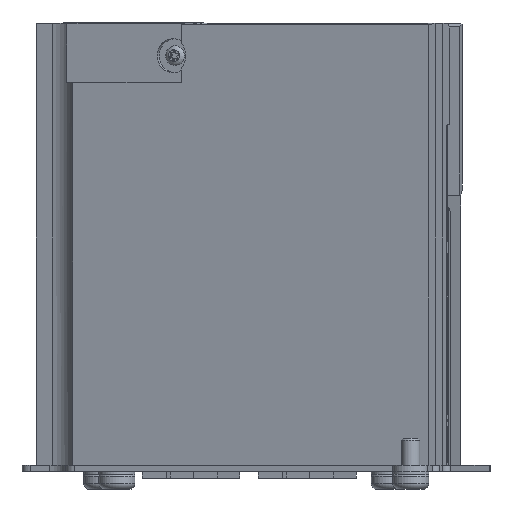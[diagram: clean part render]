
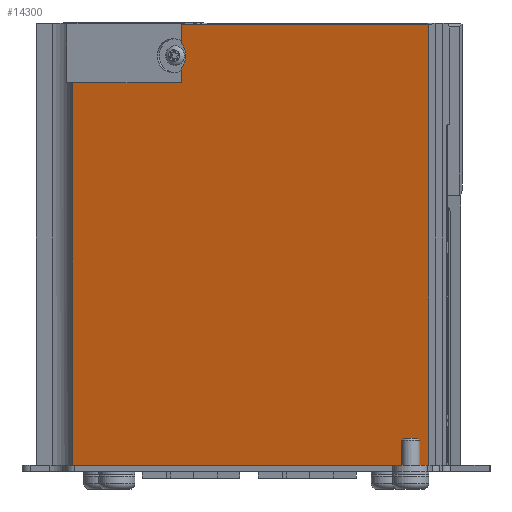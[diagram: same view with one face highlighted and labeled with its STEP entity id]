
A CAD part, front view. The second image highlights one B-rep face of the part: STEP entity #14300.
In plain terms, the highlighted planar face has unit normal (-0.329, -0.945, 0).
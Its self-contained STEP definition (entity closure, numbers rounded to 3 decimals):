
#1678=LINE('',#23355,#3213);
#1687=LINE('',#23375,#3222);
#1691=LINE('',#23386,#3226);
#1719=LINE('',#23450,#3254);
#1720=LINE('',#23454,#3255);
#1721=LINE('',#23455,#3256);
#1722=LINE('',#23456,#3257);
#3213=VECTOR('',#18296,1.);
#3222=VECTOR('',#18313,1.);
#3226=VECTOR('',#18321,1.);
#3254=VECTOR('',#18383,1.);
#3255=VECTOR('',#18388,1.);
#3256=VECTOR('',#18389,1.);
#3257=VECTOR('',#18390,1.);
#4153=FACE_OUTER_BOUND('',#4933,.T.);
#4933=EDGE_LOOP('',(#11916,#11917,#11918,#11919,#11920,#11921,#11922,#11923));
#5228=CIRCLE('',#15212,2.925);
#6417=VERTEX_POINT('',#23353);
#6418=VERTEX_POINT('',#23354);
#6424=VERTEX_POINT('',#23372);
#6425=VERTEX_POINT('',#23374);
#6429=VERTEX_POINT('',#23383);
#6430=VERTEX_POINT('',#23385);
#6449=VERTEX_POINT('',#23448);
#6450=VERTEX_POINT('',#23453);
#8293=EDGE_CURVE('',#6417,#6418,#1678,.T.);
#8303=EDGE_CURVE('',#6425,#6424,#1687,.T.);
#8308=EDGE_CURVE('',#6430,#6429,#1691,.T.);
#8339=EDGE_CURVE('',#6449,#6430,#1719,.T.);
#8340=EDGE_CURVE('',#6424,#6449,#5228,.T.);
#8341=EDGE_CURVE('',#6450,#6429,#1720,.T.);
#8342=EDGE_CURVE('',#6450,#6417,#1721,.T.);
#8343=EDGE_CURVE('',#6418,#6425,#1722,.T.);
#11916=ORIENTED_EDGE('',*,*,#8340,.T.);
#11917=ORIENTED_EDGE('',*,*,#8339,.T.);
#11918=ORIENTED_EDGE('',*,*,#8308,.T.);
#11919=ORIENTED_EDGE('',*,*,#8341,.F.);
#11920=ORIENTED_EDGE('',*,*,#8342,.T.);
#11921=ORIENTED_EDGE('',*,*,#8293,.T.);
#11922=ORIENTED_EDGE('',*,*,#8343,.T.);
#11923=ORIENTED_EDGE('',*,*,#8303,.T.);
#12916=PLANE('',#15211);
#14300=ADVANCED_FACE('',(#4153),#12916,.T.);
#15211=AXIS2_PLACEMENT_3D('',#23451,#18384,#18385);
#15212=AXIS2_PLACEMENT_3D('',#23452,#18386,#18387);
#18296=DIRECTION('',(0.,0.,1.));
#18313=DIRECTION('',(0.,0.,-1.));
#18321=DIRECTION('',(-0.944,0.329,0.));
#18383=DIRECTION('',(0.,0.,-1.));
#18384=DIRECTION('center_axis',(-0.329,-0.944,0.));
#18385=DIRECTION('ref_axis',(0.,0.,
1.));
#18386=DIRECTION('center_axis',(0.329,0.944,0.));
#18387=DIRECTION('ref_axis',(-0.944,0.329,0.));
#18388=DIRECTION('',(0.,0.,1.));
#18389=DIRECTION('',(0.944,-0.329,0.));
#18390=DIRECTION('',(-0.944,0.329,0.));
#23353=CARTESIAN_POINT('',(72.914,-124.058,72.458));
#23354=CARTESIAN_POINT('',(72.914,-124.058,145.856));
#23355=CARTESIAN_POINT('',(72.914,-124.058,72.458));
#23372=CARTESIAN_POINT('',(31.734,-109.735,142.693));
#23374=CARTESIAN_POINT('',(31.734,-109.735,145.856));
#23375=CARTESIAN_POINT('',(31.734,-109.735,109.308));
#23383=CARTESIAN_POINT('',(13.677,-103.454,136.158));
#23385=CARTESIAN_POINT('',(31.734,-109.735,136.158));
#23386=CARTESIAN_POINT('',(47.402,-115.185,136.158));
#23448=CARTESIAN_POINT('',(31.734,-109.735,138.622));
#23450=CARTESIAN_POINT('',(31.734,-109.735,109.308));
#23451=CARTESIAN_POINT('Origin',(72.914,-124.058,72.458));
#23452=CARTESIAN_POINT('Origin',(29.75,-109.045,140.658));
#23453=CARTESIAN_POINT('',(13.677,-103.454,72.458));
#23454=CARTESIAN_POINT('',(13.677,-103.454,72.458));
#23455=CARTESIAN_POINT('',(13.677,-103.454,72.458));
#23456=CARTESIAN_POINT('',(56.753,-118.437,145.856));
